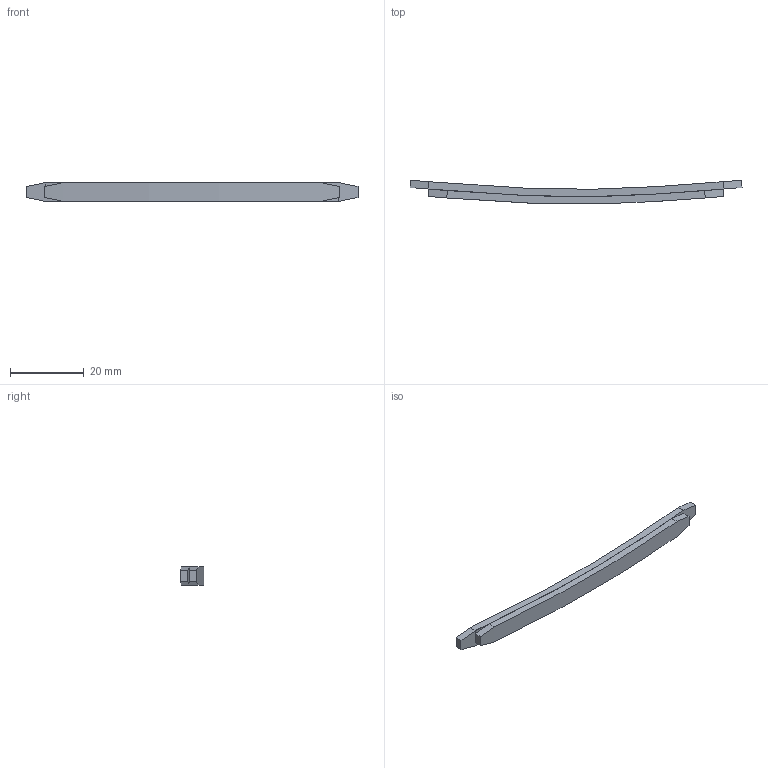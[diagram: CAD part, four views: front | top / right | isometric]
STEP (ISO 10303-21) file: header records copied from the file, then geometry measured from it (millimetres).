
FILE_DESCRIPTION(/* description */ ('Alibre Inc.'),/* implementation_level */ '2;1');
FILE_NAME(/* name */ 'export0',/* time_stamp */ '2009-11-30T13:24:36+01:00',/* author */ (''),/* organization */ (''),/* preprocessor_version */ 'ST-DEVELOPER v10',/* originating_system */ 'Alibre',/* authorisation */ '');
FILE_SCHEMA (('ALIBRE_SCHEMA','CONFIG_CONTROL_DESIGN'));
Length unit declared in the file: centimetre
Products named in the file (1): ID_1
Bounding box: 90.17 x 6.41 x 5 mm (x, y, z)
Volume: 1663.1 mm3; surface area: 2379.8 mm2
Topology: 2 solids, 2 shells, 25 faces, 57 edges, 36 vertices
Faces by surface type: plane 18, bspline 7
Entity records: 2026 total; most frequent: CARTESIAN_POINT 539, PERSISTANTTOPOLOGYATTRIBUTE 195, ORIENTED_EDGE 112, DIRECTION 92, CONSTRAINTPAIRUV 81, VECTOR 69, EDGE_CURVE 55, REFERENCEDEPENDENTUV 51
